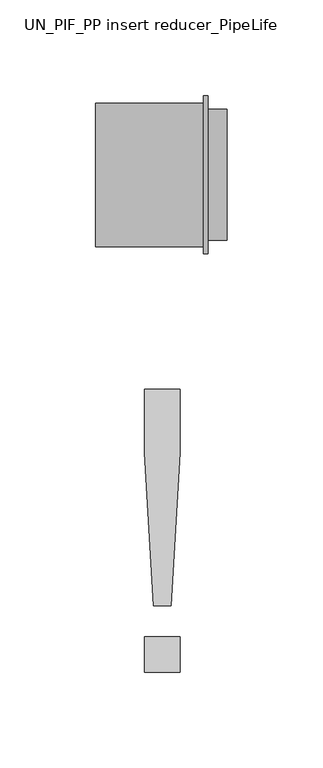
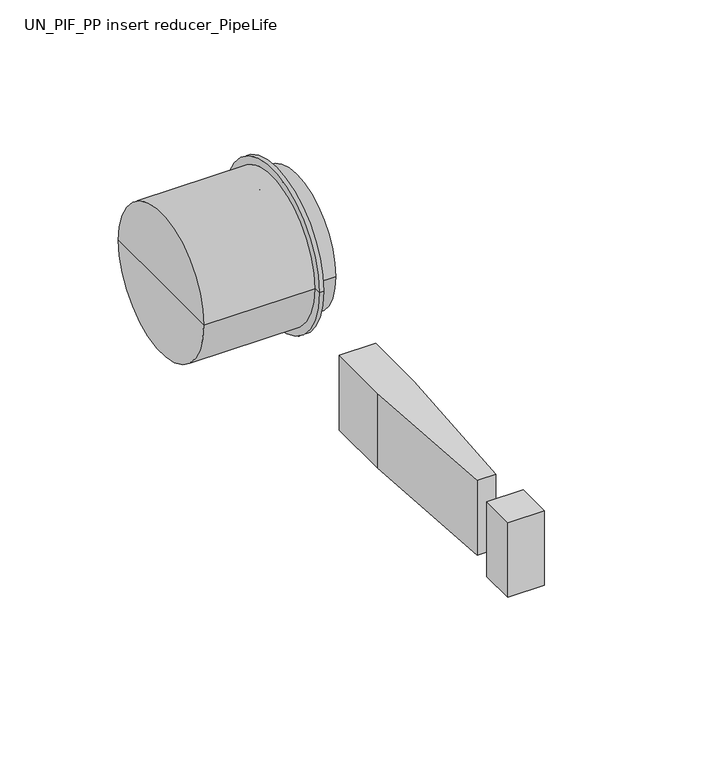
"""IFC4 building model written with IfcOpenShell, lengths in millimetres: pipe fitting geometry, UN_PIF_PP insert reducer_PipeLife : Black, var. DN/OD (max. ø125)."""

from ifc_helpers import new_model, si_unit, frame, origin, place, context, project, spatial, polyline, circle_curve, outline, extrude, source, transform, mapped, element, save
from ifc_brep_helpers import plane_surface, cylinder_surface, revolved_surface, advanced_brep


def un_pif_pp_insert_reducer_pipelife_241dbe82(model_context):
    return source(origin(), model_context, "Body", "SolidModel", [
        extrude(outline(polyline([(-8.6893236, -259.4), (-8.6893236, -240.9384615), (9.7722149, -240.9384615), (9.7722149, -259.4), (-8.6893236, -259.4)])), frame((0.0, 0.0, -20.0), z_axis=(0.0, 0.0, 1.0), x_axis=(1.0, 0.0, 0.0)), (0.0, 0.0, 1.0), 40.0),
        extrude(outline(polyline([(-4.073939, -224.7846154), (-8.6893236, -145.0610577), (-8.6893236, -111.7076923), (9.7722149, -111.7076923), (9.7722149, -145.0610577), (5.1568303, -224.7846154), (-4.073939, -224.7846154)])), frame((0.0, 0.0, -20.0), z_axis=(0.0, 0.0, 1.0), x_axis=(1.0, 0.0, 0.0)), (0.0, 0.0, 1.0), 40.0),
        advanced_brep(
        [(-6.0, -25.0, 0.0), (-6.0, 25.0, 0.0), (24.225, -25.0, 0.0), (24.225, 25.0, 0.0), (21.925, -37.5, 0.0), (21.925, 37.5, 0.0), (21.925, 41.25, 0.0), (21.925, -41.25, 0.0), (24.225, 41.25, 0.0), (24.225, -41.25, 0.0), (-34.3, 0.0, 0.0), (-34.3, 37.5, 0.0), (-34.3, -37.5, 0.0)],
        [
            (0, 1, circle_curve(frame((-6.0, 0.0, 0.0), z_axis=(1.0, 0.0, 0.0), x_axis=(0.0, 1.0, 0.0)), 25.0)),
            (1, 0, circle_curve(frame((-6.0, 0.0, 0.0), z_axis=(1.0, 0.0, 0.0), x_axis=(0.0, 1.0, 0.0)), 25.0)),
            (0, 2),
            (2, 3, circle_curve(frame((24.225, 0.0, 0.0), z_axis=(1.0, 0.0, 0.0), x_axis=(0.0, 1.0, 0.0)), 25.0)),
            (3, 1),
            (3, 2, circle_curve(frame((24.225, 0.0, 0.0), z_axis=(1.0, 0.0, 0.0), x_axis=(0.0, 1.0, 0.0)), 25.0)),
            (4, 5, circle_curve(frame((21.925, 0.0, 0.0), z_axis=(1.0, 0.0, 0.0), x_axis=(0.0, 1.0, 0.0)), 37.5)),
            (5, 6),
            (6, 7, circle_curve(frame((21.925, 0.0, 0.0), z_axis=(-1.0, 0.0, 0.0), x_axis=(0.0, 1.0, 0.0)), 41.25)),
            (7, 4),
            (5, 4, circle_curve(frame((21.925, 0.0, 0.0), z_axis=(1.0, 0.0, 0.0), x_axis=(0.0, 1.0, 0.0)), 37.5)),
            (7, 6, circle_curve(frame((21.925, 0.0, 0.0), z_axis=(-1.0, 0.0, 0.0), x_axis=(0.0, 1.0, 0.0)), 41.25)),
            (6, 8),
            (8, 9, circle_curve(frame((24.225, 0.0, 0.0), z_axis=(-1.0, 0.0, 0.0), x_axis=(0.0, 1.0, 0.0)), 41.25)),
            (9, 7),
            (9, 8, circle_curve(frame((24.225, 0.0, 0.0), z_axis=(-1.0, 0.0, 0.0), x_axis=(0.0, 1.0, 0.0)), 41.25)),
            (8, 3),
            (2, 9),
            (10, 11),
            (11, 12, circle_curve(frame((-34.3, 0.0, 0.0), z_axis=(-1.0, 0.0, 0.0), x_axis=(0.0, 1.0, 0.0)), 37.5)),
            (12, 10),
            (12, 11, circle_curve(frame((-34.3, 0.0, 0.0), z_axis=(-1.0, 0.0, 0.0), x_axis=(0.0, 1.0, 0.0)), 37.5)),
            (4, 12),
            (11, 5),
        ],
        [
            plane_surface(frame((-6.0, 25.0, 0.0), z_axis=(1.0, 0.0, 0.0), x_axis=(0.0, 0.0, -1.0))),
            revolved_surface(polyline([(24.225, 25.0, 0.0), (-6.0, 25.0, 0.0)]), (-6.0, 0.0, 0.0), (1.0, 0.0, 0.0)),
            plane_surface(frame((21.925, 0.0, 0.0), z_axis=(-1.0, 0.0, 0.0), x_axis=(0.0, 1.0, 0.0))),
            cylinder_surface(frame((-27.3, 0.0, 0.0), z_axis=(-1.0, 0.0, 0.0), x_axis=(0.0, 1.0, 0.0)), 41.25),
            plane_surface(frame((24.225, 0.0, 0.0), z_axis=(1.0, 0.0, 0.0), x_axis=(0.0, 1.0, 0.0))),
            plane_surface(frame((-34.3, 0.0, 0.0), z_axis=(-1.0, 0.0, 0.0), x_axis=(0.0, 1.0, 0.0))),
            cylinder_surface(frame((-27.3, 0.0, 0.0), z_axis=(-1.0, 0.0, 0.0), x_axis=(0.0, 1.0, 0.0)), 37.5),
        ],
        [
            (0, [[1, 2]]),
            (1, [[-1, 3, 4, 5]]),
            (1, [[-2, -5, 6, -3]]),
            (2, [[7, 8, 9, 10]]),
            (2, [[-8, 11, -10, 12]]),
            (3, [[-9, 13, 14, 15]]),
            (3, [[-12, -15, 16, -13]]),
            (4, [[-14, 17, -4, 18]]),
            (4, [[-16, -18, -6, -17]]),
            (5, [[19, 20, 21]]),
            (5, [[-19, -21, 22]]),
            (6, [[-7, 23, -20, 24]]),
            (6, [[-11, -24, -22, -23]]),
        ],
    ),
        advanced_brep(
        [(34.3, 25.0, 0.0), (24.225, 25.0, 0.0), (24.225, -25.0, 0.0), (34.3, -25.0, 0.0), (24.225, 34.15, 0.0), (24.225, -34.15, 0.0), (34.3, 34.15, 0.0), (34.3, -34.15, 0.0)],
        [
            (0, 1),
            (1, 2, circle_curve(frame((24.225, 0.0, 0.0), z_axis=(-1.0, 0.0, 0.0), x_axis=(0.0, 1.0, 0.0)), 25.0)),
            (2, 3),
            (3, 0, circle_curve(frame((34.3, 0.0, 0.0), z_axis=(1.0, 0.0, 0.0), x_axis=(0.0, 1.0, 0.0)), 25.0)),
            (0, 3, circle_curve(frame((34.3, 0.0, 0.0), z_axis=(1.0, 0.0, 0.0), x_axis=(0.0, 1.0, 0.0)), 25.0)),
            (2, 1, circle_curve(frame((24.225, 0.0, 0.0), z_axis=(-1.0, 0.0, 0.0), x_axis=(0.0, 1.0, 0.0)), 25.0)),
            (4, 5, circle_curve(frame((24.225, 0.0, 0.0), z_axis=(-1.0, 0.0, 0.0), x_axis=(0.0, 1.0, 0.0)), 34.15)),
            (5, 2),
            (1, 4),
            (5, 4, circle_curve(frame((24.225, 0.0, 0.0), z_axis=(-1.0, 0.0, 0.0), x_axis=(0.0, 1.0, 0.0)), 34.15)),
            (4, 6),
            (6, 7, circle_curve(frame((34.3, 0.0, 0.0), z_axis=(-1.0, 0.0, 0.0), x_axis=(0.0, 1.0, 0.0)), 34.15)),
            (7, 5),
            (7, 6, circle_curve(frame((34.3, 0.0, 0.0), z_axis=(-1.0, 0.0, 0.0), x_axis=(0.0, 1.0, 0.0)), 34.15)),
            (6, 0),
            (3, 7),
        ],
        [
            revolved_surface(polyline([(34.3, 25.0, 0.0), (24.225, 25.0, 0.0)]), (-6.0, 0.0, 0.0), (1.0, 0.0, 0.0)),
            plane_surface(frame((24.225, 0.0, 0.0), z_axis=(-1.0, 0.0, 0.0), x_axis=(0.0, 1.0, 0.0))),
            cylinder_surface(frame((34.3, 0.0, 0.0), z_axis=(-1.0, 0.0, 0.0), x_axis=(0.0, 1.0, 0.0)), 34.15),
            plane_surface(frame((34.3, 0.0, 0.0), z_axis=(1.0, 0.0, 0.0), x_axis=(0.0, 1.0, 0.0))),
        ],
        [
            (0, [[1, 2, 3, 4]]),
            (0, [[-1, 5, -3, 6]]),
            (1, [[7, 8, -2, 9]]),
            (1, [[10, -9, -6, -8]]),
            (2, [[-7, 11, 12, 13]]),
            (2, [[-10, -13, 14, -11]]),
            (3, [[-12, 15, -4, 16]]),
            (3, [[-14, -16, -5, -15]]),
        ],
    ),
    ])


if __name__ == "__main__":
    model = new_model("IFC4")
    model_context = context("Model", 3, world=origin())
    ifc_project = project(units=[si_unit("LENGTHUNIT", "METRE", prefix="MILLI")], contexts=[model_context])
    site = spatial("IfcSite", under=ifc_project)
    building = spatial("IfcBuilding", under=site)
    placement = place(None, origin())
    un_pif_pp_insert_reducer_pipelife_shape = un_pif_pp_insert_reducer_pipelife_241dbe82(model_context)
    element("IfcPipeFitting", 1, ObjectType="UN_PIF_PP insert reducer_PipeLife : Black, var. DN/OD (max. ø125)", at=placement, inside=building, context=model_context, shape_type="MappedRepresentation", body=[
        mapped(un_pif_pp_insert_reducer_pipelife_shape, transform((0.0, 0.0, 0.0), x_axis=(1.0, 0.0, 0.0), y_axis=(0.0, 1.0, 0.0), z_axis=(0.0, 0.0, 1.0))),
    ])
    save(model, "model.ifc")
